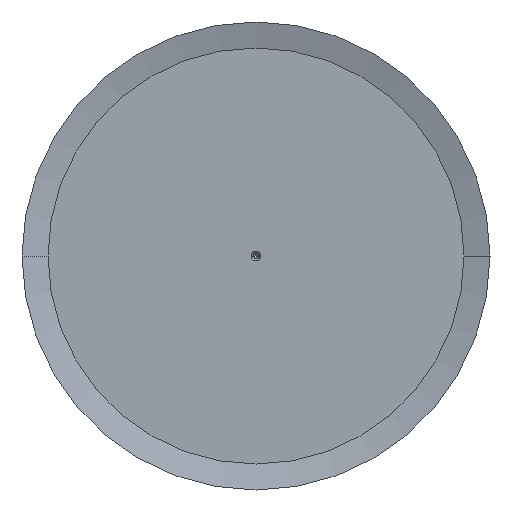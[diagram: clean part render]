
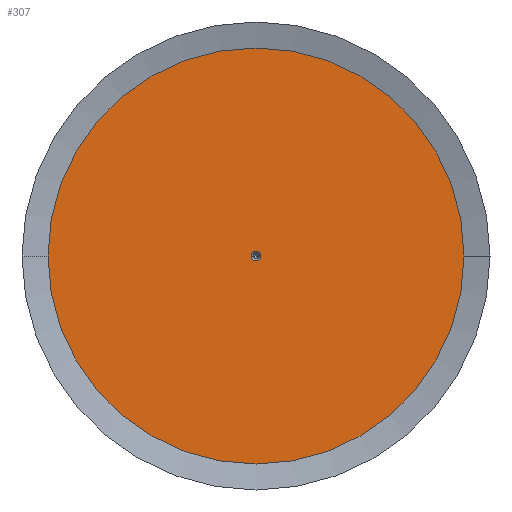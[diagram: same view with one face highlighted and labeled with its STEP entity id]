
A CAD part, left-side view. The second image highlights one B-rep face of the part: STEP entity #307.
In plain terms, the highlighted planar face has unit normal (-1, 0, 0).
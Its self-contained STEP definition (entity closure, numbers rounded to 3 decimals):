
#307=ADVANCED_FACE('',(#777,#778),#779,.T.);
#777=FACE_BOUND('',#1248,.T.);
#778=FACE_OUTER_BOUND('',#1249,.T.);
#779=PLANE('',#1250);
#1248=EDGE_LOOP('',(#3271,#3272));
#1249=EDGE_LOOP('',(#3273,#3274));
#1250=AXIS2_PLACEMENT_3D('',#3275,#3276,#3277);
#3271=ORIENTED_EDGE('',*,*,#3318,.T.);
#3272=ORIENTED_EDGE('',*,*,#3331,.T.);
#3273=ORIENTED_EDGE('',*,*,#3841,.F.);
#3274=ORIENTED_EDGE('',*,*,#3288,.F.);
#3275=CARTESIAN_POINT('',(0.0,0.0,0.0));
#3276=DIRECTION('',(-1.0,0.0,0.0));
#3277=DIRECTION('',(0.0,0.0,1.0));
#3288=EDGE_CURVE('',#3958,#3955,#3960,.T.);
#3318=EDGE_CURVE('',#4009,#4011,#4013,.T.);
#3331=EDGE_CURVE('',#4011,#4009,#4033,.T.);
#3841=EDGE_CURVE('',#3955,#3958,#4943,.T.);
#3955=VERTEX_POINT('',#5061);
#3958=VERTEX_POINT('',#5065);
#3960=CIRCLE('',#5068,88.0);
#4009=VERTEX_POINT('',#5131);
#4011=VERTEX_POINT('',#5134);
#4013=CIRCLE('',#5137,2.0);
#4033=CIRCLE('',#5163,2.0);
#4943=CIRCLE('',#6174,88.0);
#5061=CARTESIAN_POINT('',(0.0,88.0,0.0));
#5065=CARTESIAN_POINT('',(0.0,-88.0,0.));
#5068=AXIS2_PLACEMENT_3D('',#6392,#6393,#6394);
#5131=CARTESIAN_POINT('',(0.0,2.0,0.0));
#5134=CARTESIAN_POINT('',(0.0,-2.0,0.));
#5137=AXIS2_PLACEMENT_3D('',#6450,#6451,#6452);
#5163=AXIS2_PLACEMENT_3D('',#6477,#6478,#6479);
#6174=AXIS2_PLACEMENT_3D('',#7805,#7806,#7807);
#6392=CARTESIAN_POINT('',(0.0,0.0,0.0));
#6393=DIRECTION('',(1.0,0.0,0.0));
#6394=DIRECTION('',(0.0,1.0,0.0));
#6450=CARTESIAN_POINT('',(0.0,0.0,0.0));
#6451=DIRECTION('',(1.0,0.0,0.0));
#6452=DIRECTION('',(0.0,1.0,0.0));
#6477=CARTESIAN_POINT('',(0.0,0.0,0.0));
#6478=DIRECTION('',(1.0,0.0,0.0));
#6479=DIRECTION('',(0.0,1.0,0.0));
#7805=CARTESIAN_POINT('',(0.0,0.0,0.0));
#7806=DIRECTION('',(1.0,0.0,0.0));
#7807=DIRECTION('',(0.0,1.0,0.0));
